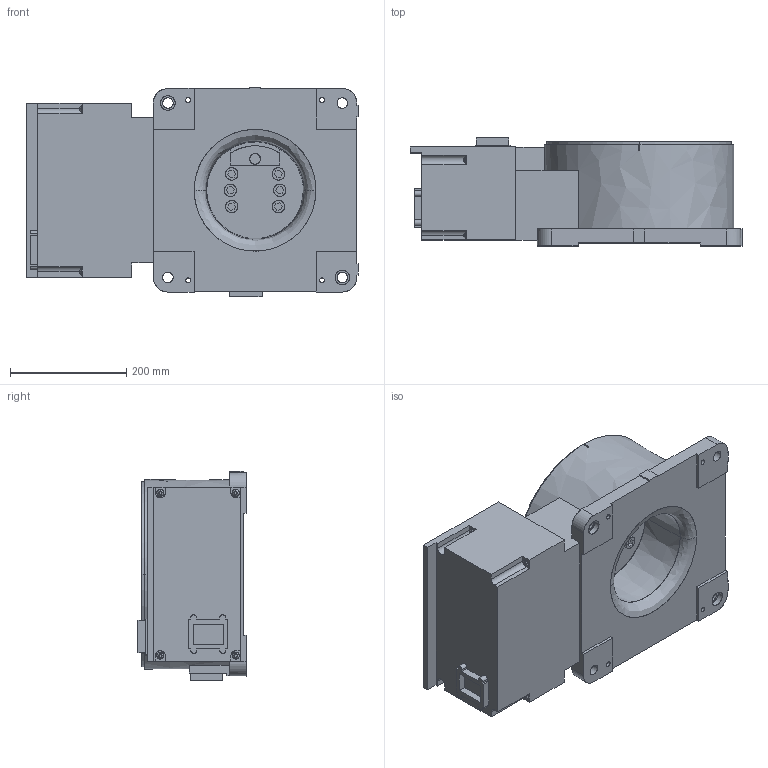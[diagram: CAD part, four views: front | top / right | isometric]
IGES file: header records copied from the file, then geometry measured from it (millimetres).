
Start section: SolidWorks IGES file using analytic representation for surfaces
Global section: file name: C:\2\Original\IRB1520ID_4_150__02_base_iges_j.IGS; native system: SolidWorks 2010; preprocessor: SolidWorks 2010; author: CNWESUN5; date: 130409.125614; units: millimetre
Bounding box: 571 x 186 x 360 mm (x, y, z)
Surface area: 1303862.7 mm2 (no closed solid volume)
Topology: 0 solids, 0 shells, 309 faces, 5190 edges, 5190 vertices
Faces by surface type: bspline 189, revolution 120
